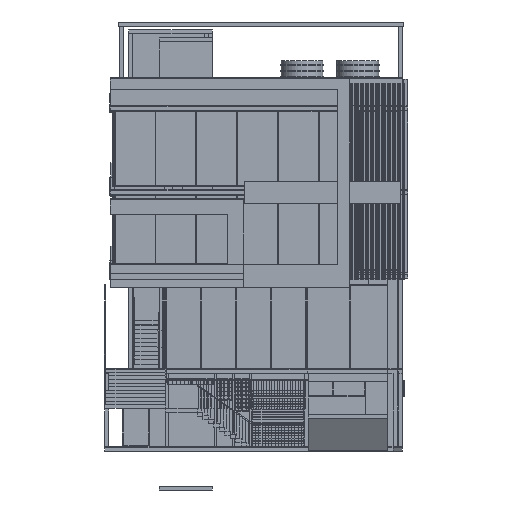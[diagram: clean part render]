
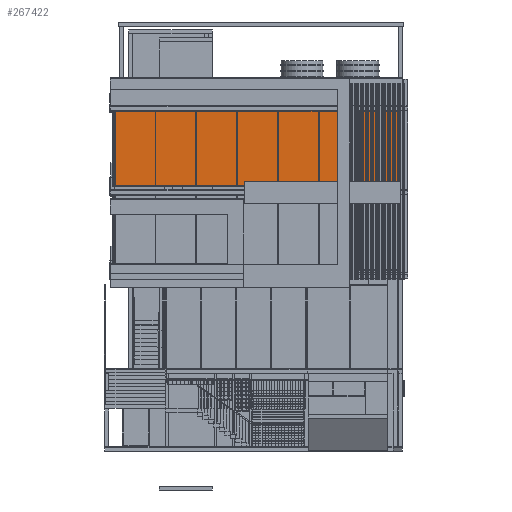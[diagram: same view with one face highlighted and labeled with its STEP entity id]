
A CAD part, front view. The second image highlights one B-rep face of the part: STEP entity #267422.
In plain terms, the highlighted planar face has unit normal (0, -1, 0).
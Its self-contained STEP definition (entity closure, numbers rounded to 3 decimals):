
#267206 = EDGE_CURVE('',#267207,#267209,#267211,.T.);
#267207 = VERTEX_POINT('',#267208);
#267208 = CARTESIAN_POINT('',(582.524,463.118,8509.));
#267209 = VERTEX_POINT('',#267210);
#267210 = CARTESIAN_POINT('',(582.524,463.118,11379.2));
#267211 = SURFACE_CURVE('',#267212,(#267216,#267228),.PCURVE_S1.);
#267212 = LINE('',#267213,#267214);
#267213 = CARTESIAN_POINT('',(582.524,463.118,8509.));
#267214 = VECTOR('',#267215,1.);
#267215 = DIRECTION('',(0.,0.,1.));
#267216 = PCURVE('',#267217,#267222);
#267217 = PLANE('',#267218);
#267218 = AXIS2_PLACEMENT_3D('',#267219,#267220,#267221);
#267219 = CARTESIAN_POINT('',(582.524,463.118,8509.));
#267220 = DIRECTION('',(1.,0.,-0.));
#267221 = DIRECTION('',(0.,0.,1.));
#267222 = DEFINITIONAL_REPRESENTATION('',(#267223),#267227);
#267223 = LINE('',#267224,#267225);
#267224 = CARTESIAN_POINT('',(0.,0.));
#267225 = VECTOR('',#267226,1.);
#267226 = DIRECTION('',(1.,0.));
#267227 = ( GEOMETRIC_REPRESENTATION_CONTEXT(2) 
PARAMETRIC_REPRESENTATION_CONTEXT() REPRESENTATION_CONTEXT('2D SPACE',''
  ) );
#267228 = PCURVE('',#267229,#267234);
#267229 = PLANE('',#267230);
#267230 = AXIS2_PLACEMENT_3D('',#267231,#267232,#267233);
#267231 = CARTESIAN_POINT('',(582.524,463.118,8509.));
#267232 = DIRECTION('',(-0.,1.,0.));
#267233 = DIRECTION('',(0.,0.,1.));
#267234 = DEFINITIONAL_REPRESENTATION('',(#267235),#267239);
#267235 = LINE('',#267236,#267237);
#267236 = CARTESIAN_POINT('',(0.,0.));
#267237 = VECTOR('',#267238,1.);
#267238 = DIRECTION('',(1.,0.));
#267239 = ( GEOMETRIC_REPRESENTATION_CONTEXT(2) 
PARAMETRIC_REPRESENTATION_CONTEXT() REPRESENTATION_CONTEXT('2D SPACE',''
  ) );
#267257 = PLANE('',#267258);
#267258 = AXIS2_PLACEMENT_3D('',#267259,#267260,#267261);
#267259 = CARTESIAN_POINT('',(582.524,463.118,8509.));
#267260 = DIRECTION('',(0.,0.,1.));
#267261 = DIRECTION('',(1.,0.,-0.));
#267311 = PLANE('',#267312);
#267312 = AXIS2_PLACEMENT_3D('',#267313,#267314,#267315);
#267313 = CARTESIAN_POINT('',(582.524,463.118,11379.2));
#267314 = DIRECTION('',(0.,0.,1.));
#267315 = DIRECTION('',(1.,0.,-0.));
#267326 = EDGE_CURVE('',#267327,#267329,#267331,.T.);
#267327 = VERTEX_POINT('',#267328);
#267328 = CARTESIAN_POINT('',(11498.25,463.118,8509.));
#267329 = VERTEX_POINT('',#267330);
#267330 = CARTESIAN_POINT('',(11498.25,463.118,11379.2));
#267331 = SURFACE_CURVE('',#267332,(#267336,#267348),.PCURVE_S1.);
#267332 = LINE('',#267333,#267334);
#267333 = CARTESIAN_POINT('',(11498.25,463.118,8509.));
#267334 = VECTOR('',#267335,1.);
#267335 = DIRECTION('',(0.,0.,1.));
#267336 = PCURVE('',#267337,#267342);
#267337 = PLANE('',#267338);
#267338 = AXIS2_PLACEMENT_3D('',#267339,#267340,#267341);
#267339 = CARTESIAN_POINT('',(11498.25,463.118,8509.));
#267340 = DIRECTION('',(1.,0.,-0.));
#267341 = DIRECTION('',(0.,0.,1.));
#267342 = DEFINITIONAL_REPRESENTATION('',(#267343),#267347);
#267343 = LINE('',#267344,#267345);
#267344 = CARTESIAN_POINT('',(0.,0.));
#267345 = VECTOR('',#267346,1.);
#267346 = DIRECTION('',(1.,0.));
#267347 = ( GEOMETRIC_REPRESENTATION_CONTEXT(2) 
PARAMETRIC_REPRESENTATION_CONTEXT() REPRESENTATION_CONTEXT('2D SPACE',''
  ) );
#267348 = PCURVE('',#267229,#267349);
#267349 = DEFINITIONAL_REPRESENTATION('',(#267350),#267354);
#267350 = LINE('',#267351,#267352);
#267351 = CARTESIAN_POINT('',(0.,10915.726));
#267352 = VECTOR('',#267353,1.);
#267353 = DIRECTION('',(1.,0.));
#267354 = ( GEOMETRIC_REPRESENTATION_CONTEXT(2) 
PARAMETRIC_REPRESENTATION_CONTEXT() REPRESENTATION_CONTEXT('2D SPACE',''
  ) );
#267422 = ADVANCED_FACE('',(#267423),#267229,.F.);
#267423 = FACE_BOUND('',#267424,.F.);
#267424 = EDGE_LOOP('',(#267425,#267446,#267447,#267468));
#267425 = ORIENTED_EDGE('',*,*,#267426,.F.);
#267426 = EDGE_CURVE('',#267207,#267327,#267427,.T.);
#267427 = SURFACE_CURVE('',#267428,(#267432,#267439),.PCURVE_S1.);
#267428 = LINE('',#267429,#267430);
#267429 = CARTESIAN_POINT('',(582.524,463.118,8509.));
#267430 = VECTOR('',#267431,1.);
#267431 = DIRECTION('',(1.,0.,-0.));
#267432 = PCURVE('',#267229,#267433);
#267433 = DEFINITIONAL_REPRESENTATION('',(#267434),#267438);
#267434 = LINE('',#267435,#267436);
#267435 = CARTESIAN_POINT('',(0.,0.));
#267436 = VECTOR('',#267437,1.);
#267437 = DIRECTION('',(0.,1.));
#267438 = ( GEOMETRIC_REPRESENTATION_CONTEXT(2) 
PARAMETRIC_REPRESENTATION_CONTEXT() REPRESENTATION_CONTEXT('2D SPACE',''
  ) );
#267439 = PCURVE('',#267257,#267440);
#267440 = DEFINITIONAL_REPRESENTATION('',(#267441),#267445);
#267441 = LINE('',#267442,#267443);
#267442 = CARTESIAN_POINT('',(0.,0.));
#267443 = VECTOR('',#267444,1.);
#267444 = DIRECTION('',(1.,0.));
#267445 = ( GEOMETRIC_REPRESENTATION_CONTEXT(2) 
PARAMETRIC_REPRESENTATION_CONTEXT() REPRESENTATION_CONTEXT('2D SPACE',''
  ) );
#267446 = ORIENTED_EDGE('',*,*,#267206,.T.);
#267447 = ORIENTED_EDGE('',*,*,#267448,.T.);
#267448 = EDGE_CURVE('',#267209,#267329,#267449,.T.);
#267449 = SURFACE_CURVE('',#267450,(#267454,#267461),.PCURVE_S1.);
#267450 = LINE('',#267451,#267452);
#267451 = CARTESIAN_POINT('',(582.524,463.118,11379.2));
#267452 = VECTOR('',#267453,1.);
#267453 = DIRECTION('',(1.,0.,-0.));
#267454 = PCURVE('',#267229,#267455);
#267455 = DEFINITIONAL_REPRESENTATION('',(#267456),#267460);
#267456 = LINE('',#267457,#267458);
#267457 = CARTESIAN_POINT('',(2870.2,0.));
#267458 = VECTOR('',#267459,1.);
#267459 = DIRECTION('',(0.,1.));
#267460 = ( GEOMETRIC_REPRESENTATION_CONTEXT(2) 
PARAMETRIC_REPRESENTATION_CONTEXT() REPRESENTATION_CONTEXT('2D SPACE',''
  ) );
#267461 = PCURVE('',#267311,#267462);
#267462 = DEFINITIONAL_REPRESENTATION('',(#267463),#267467);
#267463 = LINE('',#267464,#267465);
#267464 = CARTESIAN_POINT('',(0.,0.));
#267465 = VECTOR('',#267466,1.);
#267466 = DIRECTION('',(1.,0.));
#267467 = ( GEOMETRIC_REPRESENTATION_CONTEXT(2) 
PARAMETRIC_REPRESENTATION_CONTEXT() REPRESENTATION_CONTEXT('2D SPACE',''
  ) );
#267468 = ORIENTED_EDGE('',*,*,#267326,.F.);
